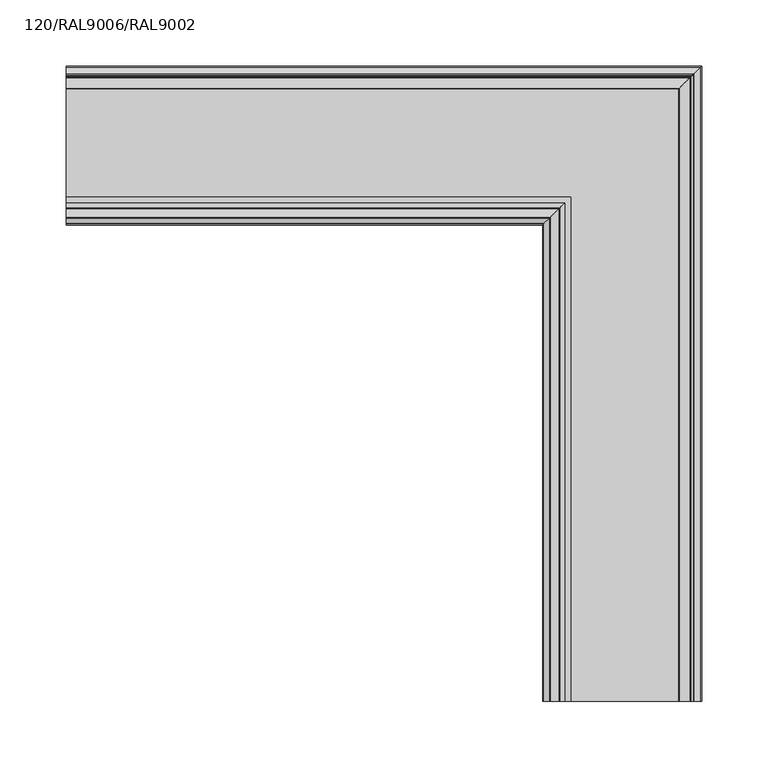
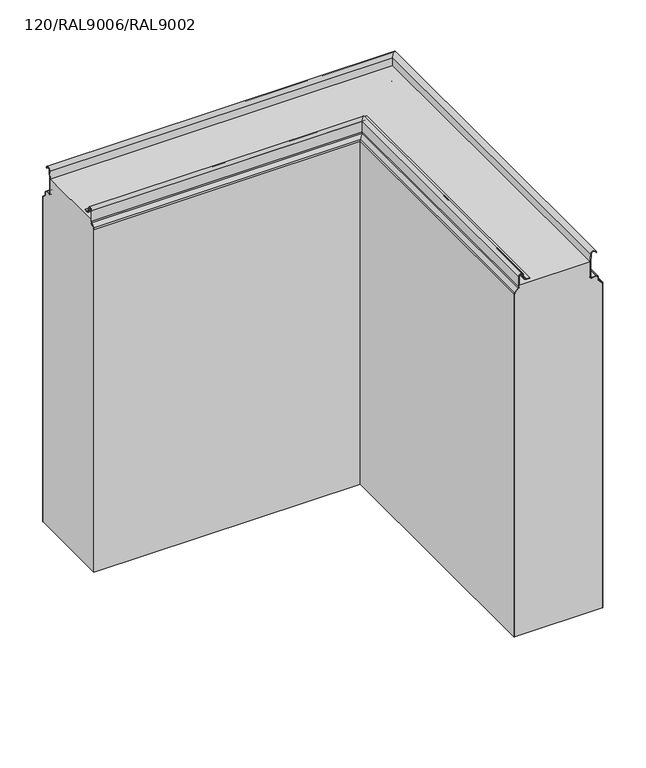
"""IFC4 building model written with IfcOpenShell, lengths in millimetres: plate geometry, TR_C_H_FHL_Corner_Tr_A_cut_TONGUE : 120/RAL9006/RAL9002."""

from ifc_helpers import new_model, si_unit, frame, origin, place, context, project, spatial, polyline, circle_curve, ellipse_curve, source, transform, mapped, element, save
from ifc_brep_helpers import plane_surface, cylinder_surface, revolved_surface, advanced_brep


def plate_120_ral9006_ral9002_7929c230(model_context):
    return source(origin(), model_context, "Body", "AdvancedBrep", [
        advanced_brep(
        [(222.5544237, -480.0, 500.0), (126.8, -480.0, 500.0), (126.8, -480.0, 498.1), (125.8334524, -480.0, 495.7665476), (121.4443651, -480.0, 491.3774603), (120.8, -480.0, 489.8218254), (120.8, -480.0, 0.0), (239.2, -480.0, 0.0), (239.2, -480.0, 463.4370797), (238.6435029, -480.0, 464.7805826), (233.820101, -480.0, 469.6039845), (233.0, -480.0, 471.5838835), (233.0, -480.0, 474.4), (231.1, -480.0, 476.3), (225.2, -480.0, 476.3), (222.4, -480.0, 479.1), (222.4, -480.0, 498.2349288), (-240.0, -17.4455763, 500.0), (-240.0, -17.6, 498.2349288), (-240.0, -17.6, 479.1), (-240.0, -14.8, 476.3), (-240.0, -8.9, 476.3), (-240.0, -7.0, 474.4), (-240.0, -7.0, 471.5838835), (-240.0, -6.179899, 469.6039845), (-240.0, -1.3564971, 464.7805826), (-240.0, -0.8, 463.4370797), (-240.0, -0.8, 0.0), (-240.0, -119.2, 0.0), (-240.0, -119.2, 489.8218254), (-240.0, -118.5556349, 491.3774603), (-240.0, -114.1665476, 495.7665476), (-240.0, -113.2, 498.1), (-240.0, -113.2, 500.0), (222.5544237, -17.4455763, 500.0), (126.8, -113.2, 500.0), (126.8, -113.2, 498.1), (125.8334524, -114.1665476, 495.7665476), (121.4443651, -118.5556349, 491.3774603), (120.8, -119.2, 489.8218254), (239.2, -0.8, 463.4370797), (238.6435029, -1.3564971, 464.7805826), (233.820101, -6.179899, 469.6039845), (233.0, -7.0, 471.5838835), (233.0, -7.0, 474.4), (231.1, -8.9, 476.3), (225.2, -14.8, 476.3), (222.4, -17.6, 479.1), (222.4, -17.6, 498.2349288), (120.8, -119.2, 0.0), (239.2, -0.8, 0.0)],
        [
            (0, 1),
            (1, 2),
            (2, 3, circle_curve(frame((123.5, -480.0, 498.1), z_axis=(0.0, 1.0, 0.0), x_axis=(-1.0, 0.0, 0.0)), 3.3)),
            (3, 4),
            (4, 5, circle_curve(frame((123.0, -480.0, 489.8218254), z_axis=(0.0, -1.0, 0.0), x_axis=(-1.0, 0.0, 0.0)), 2.2)),
            (5, 6),
            (6, 7),
            (7, 8),
            (8, 9, circle_curve(frame((237.3, -480.0, 463.4370797), z_axis=(0.0, -1.0, 0.0), x_axis=(-1.0, 0.0, 0.0)), 1.9)),
            (9, 10),
            (10, 11, circle_curve(frame((235.8, -480.0, 471.5838835), z_axis=(0.0, 1.0, 0.0), x_axis=(-1.0, 0.0, 0.0)), 2.8)),
            (11, 12),
            (12, 13, circle_curve(frame((231.1, -480.0, 474.4), z_axis=(0.0, -1.0, 0.0), x_axis=(-1.0, 0.0, 0.0)), 1.9)),
            (13, 14),
            (14, 15, circle_curve(frame((225.2, -480.0, 479.1), z_axis=(0.0, 1.0, 0.0), x_axis=(-1.0, 0.0, 0.0)), 2.8)),
            (15, 16),
            (16, 0),
            (17, 18),
            (18, 19),
            (19, 20, circle_curve(frame((-240.0, -14.8, 479.1), z_axis=(1.0, 0.0, 0.0), x_axis=(0.0, -1.0, 0.0)), 2.8)),
            (20, 21),
            (21, 22, circle_curve(frame((-240.0, -8.9, 474.4), z_axis=(-1.0, 0.0, 0.0), x_axis=(0.0, -1.0, 0.0)), 1.9)),
            (22, 23),
            (23, 24, circle_curve(frame((-240.0, -4.2, 471.5838835), z_axis=(1.0, 0.0, 0.0), x_axis=(0.0, -1.0, 0.0)), 2.8)),
            (24, 25),
            (25, 26, circle_curve(frame((-240.0, -2.7, 463.4370797), z_axis=(-1.0, 0.0, 0.0), x_axis=(0.0, -1.0, 0.0)), 1.9)),
            (26, 27),
            (27, 28),
            (28, 29),
            (29, 30, circle_curve(frame((-240.0, -117.0, 489.8218254), z_axis=(-1.0, 0.0, 0.0), x_axis=(0.0, -1.0, 0.0)), 2.2)),
            (30, 31),
            (31, 32, circle_curve(frame((-240.0, -116.5, 498.1), z_axis=(1.0, 0.0, 0.0), x_axis=(0.0, -1.0, 0.0)), 3.3)),
            (32, 33),
            (33, 17),
            (0, 34),
            (34, 17),
            (33, 35),
            (35, 1),
            (35, 36),
            (36, 2),
            (36, 37, ellipse_curve(frame((123.5, -116.5, 498.1), z_axis=(-0.7071067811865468, 0.7071067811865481, 0.0), x_axis=(0.7071067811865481, 0.7071067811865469, 0.0)), 4.6669048, 3.3)),
            (37, 3),
            (37, 38),
            (38, 4),
            (38, 39, ellipse_curve(frame((123.0, -117.0, 489.8218254), z_axis=(0.7071067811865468, -0.7071067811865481, 0.0), x_axis=(-0.7071067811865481, -0.7071067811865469, 0.0)), 3.1112698, 2.2)),
            (39, 5),
            (8, 40),
            (40, 41, ellipse_curve(frame((237.3, -2.7, 463.4370797), z_axis=(0.7071067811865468, -0.7071067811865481, 0.0), x_axis=(-0.7071067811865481, -0.7071067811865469, 0.0)), 2.6870058, 1.9)),
            (41, 9),
            (41, 42),
            (42, 10),
            (42, 43, ellipse_curve(frame((235.8, -4.2, 471.5838835), z_axis=(-0.7071067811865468, 0.7071067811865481, 0.0), x_axis=(0.7071067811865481, 0.7071067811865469, 0.0)), 3.959798, 2.8)),
            (43, 11),
            (43, 44),
            (44, 12),
            (44, 45, ellipse_curve(frame((231.1, -8.9, 474.4), z_axis=(0.7071067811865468, -0.7071067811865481, 0.0), x_axis=(-0.7071067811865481, -0.7071067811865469, 0.0)), 2.6870058, 1.9)),
            (45, 13),
            (45, 21),
            (20, 46),
            (46, 14),
            (46, 47, ellipse_curve(frame((225.2, -14.8, 479.1), z_axis=(-0.7071067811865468, 0.7071067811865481, 0.0), x_axis=(0.7071067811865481, 0.7071067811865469, 0.0)), 3.959798, 2.8)),
            (47, 15),
            (47, 48),
            (48, 16),
            (48, 34),
            (32, 36),
            (31, 37),
            (30, 38),
            (29, 39),
            (25, 41),
            (40, 26),
            (24, 42),
            (23, 43),
            (22, 44),
            (19, 47),
            (18, 48),
            (39, 49),
            (49, 6),
            (7, 50),
            (50, 40),
            (28, 49),
            (50, 27),
        ],
        [
            plane_surface(frame((240.0, -480.0, 0.0), z_axis=(0.0, -1.0, 0.0), x_axis=(0.0, 0.0, 1.0))),
            plane_surface(frame((-240.0, 0.0, 0.0), z_axis=(-1.0, 0.0, 0.0), x_axis=(0.0, 0.0, 1.0))),
            plane_surface(frame((222.5544237, -480.0, 500.0), z_axis=(0.0, 0.0, 1.0), x_axis=(0.0, 1.0, 0.0))),
            plane_surface(frame((126.8, -480.0, 500.0), z_axis=(-1.0, 0.0, 0.0), x_axis=(0.0, 1.0, 0.0))),
            revolved_surface(polyline([(120.2, -113.19999996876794, 498.1), (120.2, -480.0, 498.1)]), (123.5, -480.0, 498.1), (0.0, 1.0, 0.0)),
            plane_surface(frame((125.8334524, -480.0, 495.7665476), z_axis=(-0.7071067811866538, 0.0, 0.7071067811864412), x_axis=(0.0, 1.0, 0.0))),
            cylinder_surface(frame((123.0, -480.0, 489.8218254), z_axis=(0.0, -1.0, 0.0), x_axis=(-1.0, 0.0, 0.0)), 2.2),
            cylinder_surface(frame((237.3, -480.0, 463.4370797), z_axis=(0.0, -1.0, 0.0), x_axis=(-1.0, 0.0, 0.0)), 1.9),
            plane_surface(frame((238.6435029, -480.0, 464.7805826), z_axis=(0.7071067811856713, 0.0, 0.7071067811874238), x_axis=(0.0, 1.0, 0.0))),
            revolved_surface(polyline([(233.0, -1.3999999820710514, 471.5838835), (233.0, -480.0, 471.5838835)]), (235.8, -480.0, 471.5838835), (0.0, 1.0, 0.0)),
            plane_surface(frame((233.0, -480.0, 471.5838835), z_axis=(1.0, 0.0, 0.0), x_axis=(0.0, 1.0, 0.0))),
            cylinder_surface(frame((231.1, -480.0, 474.4), z_axis=(0.0, -1.0, 0.0), x_axis=(-1.0, 0.0, 0.0)), 1.9),
            plane_surface(frame((231.1, -480.0, 476.3), z_axis=(0.0, 0.0, 1.0), x_axis=(0.0, 1.0, 0.0))),
            revolved_surface(polyline([(222.39999999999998, -11.999999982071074, 479.1), (222.39999999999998, -480.0, 479.1)]), (225.2, -480.0, 479.1), (0.0, 1.0, 0.0)),
            plane_surface(frame((222.4, -480.0, 479.1), z_axis=(1.0, 0.0, 0.0), x_axis=(0.0, 1.0, 0.0))),
            plane_surface(frame((222.4, -480.0, 498.2349288), z_axis=(0.9961946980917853, 0.0, -0.08715574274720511), x_axis=(0.0, 1.0, 0.0))),
            plane_surface(frame((126.8, -113.2, 500.0), z_axis=(0.0, -1.0, 0.0), x_axis=(-1.0, 0.0, 0.0))),
            revolved_surface(polyline([(-240.0, -119.8, 498.1), (126.80000003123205, -119.8, 498.1)]), (240.0, -116.5, 498.1), (-1.0, 0.0, 0.0)),
            plane_surface(frame((125.8334524, -114.1665476, 495.7665476), z_axis=(0.0, -0.7071067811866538, 0.7071067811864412), x_axis=(-1.0, 0.0, 0.0))),
            cylinder_surface(frame((240.0, -117.0, 489.8218254), z_axis=(1.0, 0.0, 0.0), x_axis=(0.0, -1.0, 0.0)), 2.2),
            cylinder_surface(frame((240.0, -2.7, 463.4370797), z_axis=(1.0, 0.0, 0.0), x_axis=(0.0, -1.0, 0.0)), 1.9),
            plane_surface(frame((238.6435029, -1.3564971, 464.7805826), z_axis=(0.0, 0.7071067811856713, 0.7071067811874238), x_axis=(-1.0, 0.0, 0.0))),
            revolved_surface(polyline([(-240.0, -7.0, 471.5838835), (238.60000001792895, -7.0, 471.5838835)]), (240.0, -4.2, 471.5838835), (-1.0, 0.0, 0.0)),
            plane_surface(frame((233.0, -7.0, 471.5838835), z_axis=(0.0, 1.0, 0.0), x_axis=(-1.0, 0.0, 0.0))),
            cylinder_surface(frame((240.0, -8.9, 474.4), z_axis=(1.0, 0.0, 0.0), x_axis=(0.0, -1.0, 0.0)), 1.9),
            revolved_surface(polyline([(-240.0, -17.6, 479.1), (228.00000001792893, -17.6, 479.1)]), (240.0, -14.8, 479.1), (-1.0, 0.0, 0.0)),
            plane_surface(frame((222.4, -17.6, 479.1), z_axis=(0.0, 1.0, 0.0), x_axis=(-1.0, 0.0, 0.0))),
            plane_surface(frame((222.4, -17.6, 498.2349288), z_axis=(0.0, 0.9961946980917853, -0.08715574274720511), x_axis=(-1.0, 0.0, 0.0))),
            plane_surface(frame((120.8, -480.0, 489.8218254), z_axis=(-1.0, 0.0, 0.0), x_axis=(0.0, 1.0, 0.0))),
            plane_surface(frame((239.2, -480.0, -484.0006516), z_axis=(1.0, 0.0, 0.0), x_axis=(0.0, 1.0, 0.0))),
            plane_surface(frame((120.8, -119.2, 489.8218254), z_axis=(0.0, -1.0, 0.0), x_axis=(-1.0, 0.0, 0.0))),
            plane_surface(frame((239.2, -0.8, -484.0006516), z_axis=(0.0, 1.0, 0.0), x_axis=(-1.0, 0.0, 0.0))),
            plane_surface(frame((240.0, -480.0, 0.0), z_axis=(0.0, 0.0, -1.0), x_axis=(0.0, 1.0, 0.0))),
        ],
        [
            (0, [[1, 2, 3, 4, 5, 6, 7, 8, 9, 10, 11, 12, 13, 14, 15, 16, 17]]),
            (1, [[18, 19, 20, 21, 22, 23, 24, 25, 26, 27, 28, 29, 30, 31, 32, 33, 34]]),
            (2, [[-1, 35, 36, -34, 37, 38]]),
            (3, [[-2, -38, 39, 40]]),
            (4, [[-3, -40, 41, 42]]),
            (5, [[-4, -42, 43, 44]]),
            (6, [[-5, -44, 45, 46]]),
            (7, [[-9, 47, 48, 49]]),
            (8, [[-10, -49, 50, 51]]),
            (9, [[-11, -51, 52, 53]]),
            (10, [[-12, -53, 54, 55]]),
            (11, [[-13, -55, 56, 57]]),
            (12, [[-14, -57, 58, -21, 59, 60]]),
            (13, [[-15, -60, 61, 62]]),
            (14, [[-16, -62, 63, 64]]),
            (15, [[-17, -64, 65, -35]]),
            (16, [[-33, 66, -39, -37]]),
            (17, [[-32, 67, -41, -66]]),
            (18, [[-31, 68, -43, -67]]),
            (19, [[-30, 69, -45, -68]]),
            (20, [[-26, 70, -48, 71]]),
            (21, [[-25, 72, -50, -70]]),
            (22, [[-24, 73, -52, -72]]),
            (23, [[-23, 74, -54, -73]]),
            (24, [[-22, -58, -56, -74]]),
            (25, [[-20, 75, -61, -59]]),
            (26, [[-19, 76, -63, -75]]),
            (27, [[-18, -36, -65, -76]]),
            (28, [[-46, 77, 78, -6]]),
            (29, [[-47, -8, 79, 80]]),
            (30, [[-69, -29, 81, -77]]),
            (31, [[-71, -80, 82, -27]]),
            (32, [[-7, -78, -81, -28, -82, -79]]),
        ],
    ),
        advanced_brep(
        [(230.8148588, -480.0, 510.5426332), (231.5712737, -480.0, 510.8030877), (231.2616595, -480.0, 511.7022726), (223.4948064, -480.0, 510.748623), (222.4, -480.0, 498.2349288), (222.4, -480.0, 479.1), (225.2, -480.0, 476.3), (231.1, -480.0, 476.3), (233.0, -480.0, 474.4), (233.0, -480.0, 471.5838835), (233.820101, -480.0, 469.6039845), (238.6435029, -480.0, 464.7805826), (239.2, -480.0, 463.4370797), (239.2, -480.0, 0.0), (240.0, -480.0, 0.0), (240.0, -480.0, 463.4370797), (239.2091883, -480.0, 465.346268), (234.3857864, -480.0, 470.1696699), (233.8, -480.0, 471.5838835), (233.8, -480.0, 474.4), (231.1, -480.0, 477.1), (225.2, -480.0, 477.1), (223.2, -480.0, 479.1), (223.2, -480.0, 498.2), (224.2917621, -480.0, 510.6788984), (230.5052446, -480.0, 511.4418181), (-240.0, -9.1851412, 510.5426332), (-240.0, -9.4947554, 511.4418181), (-240.0, -15.7082379, 510.6788984), (-240.0, -16.8, 498.2), (-240.0, -16.8, 479.1), (-240.0, -14.8, 477.1), (-240.0, -8.9, 477.1), (-240.0, -6.2, 474.4), (-240.0, -6.2, 471.5838835), (-240.0, -5.6142136, 470.1696699), (-240.0, -0.7908117, 465.346268), (-240.0, 0.0, 463.4370797), (-240.0, 0.0, 0.0), (-240.0, -0.8, 0.0), (-240.0, -0.8, 463.4370797), (-240.0, -1.3564971, 464.7805826), (-240.0, -6.179899, 469.6039845), (-240.0, -7.0, 471.5838835), (-240.0, -7.0, 474.4), (-240.0, -8.9, 476.3), (-240.0, -14.8, 476.3), (-240.0, -17.6, 479.1), (-240.0, -17.6, 498.2349288), (-240.0, -16.5051936, 510.748623), (-240.0, -8.7383405, 511.7022726), (-240.0, -8.4287263, 510.8030877), (240.0, 0.0, 463.4370797), (239.2091883, -0.7908117, 465.346268), (234.3857864, -5.6142136, 470.1696699), (233.8, -6.2, 471.5838835), (233.8, -6.2, 474.4), (231.1, -8.9, 477.1), (225.2, -14.8, 477.1), (223.2, -16.8, 479.1), (223.2, -16.8, 498.2), (224.2917621, -15.7082379, 510.6788984), (230.5052446, -9.4947554, 511.4418181), (230.8148588, -9.1851412, 510.5426332), (231.5712737, -8.4287263, 510.8030877), (231.2616595, -8.7383405, 511.7022726), (223.4948064, -16.5051936, 510.748623), (222.4, -17.6, 498.2349288), (222.4, -17.6, 479.1), (225.2, -14.8, 476.3), (231.1, -8.9, 476.3), (233.0, -7.0, 474.4), (233.0, -7.0, 471.5838835), (233.820101, -6.179899, 469.6039845), (238.6435029, -1.3564971, 464.7805826), (239.2, -0.8, 463.4370797), (239.2, -0.8, 0.0), (240.0, 0.0, 0.0)],
        [
            (0, 1),
            (1, 2),
            (2, 3, circle_curve(frame((227.4795852, -480.0, 510.4), z_axis=(0.0, -1.0, 0.0), x_axis=(-1.0, 0.0, 0.0)), 4.0)),
            (3, 4),
            (4, 5),
            (5, 6, circle_curve(frame((225.2, -480.0, 479.1), z_axis=(0.0, -1.0, 0.0), x_axis=(-1.0, 0.0, 0.0)), 2.8)),
            (6, 7),
            (7, 8, circle_curve(frame((231.1, -480.0, 474.4), z_axis=(0.0, 1.0, 0.0), x_axis=(-1.0, 0.0, 0.0)), 1.9)),
            (8, 9),
            (9, 10, circle_curve(frame((235.8, -480.0, 471.5838835), z_axis=(0.0, -1.0, 0.0), x_axis=(-1.0, 0.0, 0.0)), 2.8)),
            (10, 11),
            (11, 12, circle_curve(frame((237.3, -480.0, 463.4370797), z_axis=(0.0, 1.0, 0.0), x_axis=(-1.0, 0.0, 0.0)), 1.9)),
            (12, 13),
            (13, 14),
            (14, 15),
            (15, 16, circle_curve(frame((237.3, -480.0, 463.4370797), z_axis=(0.0, -1.0, 0.0), x_axis=(-1.0, 0.0, 0.0)), 2.7)),
            (16, 17),
            (17, 18, circle_curve(frame((235.8, -480.0, 471.5838835), z_axis=(0.0, 1.0, 0.0), x_axis=(-1.0, 0.0, 0.0)), 2.0)),
            (18, 19),
            (19, 20, circle_curve(frame((231.1, -480.0, 474.4), z_axis=(0.0, -1.0, 0.0), x_axis=(-1.0, 0.0, 0.0)), 2.7)),
            (20, 21),
            (21, 22, circle_curve(frame((225.2, -480.0, 479.1), z_axis=(0.0, 1.0, 0.0), x_axis=(-1.0, 0.0, 0.0)), 2.0)),
            (22, 23),
            (23, 24),
            (24, 25, circle_curve(frame((227.4795852, -480.0, 510.4), z_axis=(0.0, 1.0, 0.0), x_axis=(-1.0, 0.0, 0.0)), 3.2)),
            (25, 0),
            (26, 27),
            (27, 28, circle_curve(frame((-240.0, -12.5204148, 510.4), z_axis=(1.0, 0.0, 0.0), x_axis=(0.0, -1.0, 0.0)), 3.2)),
            (28, 29),
            (29, 30),
            (30, 31, circle_curve(frame((-240.0, -14.8, 479.1), z_axis=(1.0, 0.0, 0.0), x_axis=(0.0, -1.0, 0.0)), 2.0)),
            (31, 32),
            (32, 33, circle_curve(frame((-240.0, -8.9, 474.4), z_axis=(-1.0, 0.0, 0.0), x_axis=(0.0, -1.0, 0.0)), 2.7)),
            (33, 34),
            (34, 35, circle_curve(frame((-240.0, -4.2, 471.5838835), z_axis=(1.0, 0.0, 0.0), x_axis=(0.0, -1.0, 0.0)), 2.0)),
            (35, 36),
            (36, 37, circle_curve(frame((-240.0, -2.7, 463.4370797), z_axis=(-1.0, 0.0, 0.0), x_axis=(0.0, -1.0, 0.0)), 2.7)),
            (37, 38),
            (38, 39),
            (39, 40),
            (40, 41, circle_curve(frame((-240.0, -2.7, 463.4370797), z_axis=(1.0, 0.0, 0.0), x_axis=(0.0, -1.0, 0.0)), 1.9)),
            (41, 42),
            (42, 43, circle_curve(frame((-240.0, -4.2, 471.5838835), z_axis=(-1.0, 0.0, 0.0), x_axis=(0.0, -1.0, 0.0)), 2.8)),
            (43, 44),
            (44, 45, circle_curve(frame((-240.0, -8.9, 474.4), z_axis=(1.0, 0.0, 0.0), x_axis=(0.0, -1.0, 0.0)), 1.9)),
            (45, 46),
            (46, 47, circle_curve(frame((-240.0, -14.8, 479.1), z_axis=(-1.0, 0.0, 0.0), x_axis=(0.0, -1.0, 0.0)), 2.8)),
            (47, 48),
            (48, 49),
            (49, 50, circle_curve(frame((-240.0, -12.5204148, 510.4), z_axis=(-1.0, 0.0, 0.0), x_axis=(0.0, -1.0, 0.0)), 4.0)),
            (50, 51),
            (51, 26),
            (15, 52),
            (52, 53, ellipse_curve(frame((237.3, -2.7, 463.4370797), z_axis=(0.7071067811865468, -0.7071067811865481, 0.0), x_axis=(-0.7071067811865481, -0.7071067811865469, 0.0)), 3.8183766, 2.7)),
            (53, 16),
            (53, 54),
            (54, 17),
            (54, 55, ellipse_curve(frame((235.8, -4.2, 471.5838835), z_axis=(-0.7071067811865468, 0.7071067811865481, 0.0), x_axis=(0.7071067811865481, 0.7071067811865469, 0.0)), 2.8284271, 2.0)),
            (55, 18),
            (55, 56),
            (56, 19),
            (56, 57, ellipse_curve(frame((231.1, -8.9, 474.4), z_axis=(0.7071067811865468, -0.7071067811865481, 0.0), x_axis=(-0.7071067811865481, -0.7071067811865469, 0.0)), 3.8183766, 2.7)),
            (57, 20),
            (57, 32),
            (31, 58),
            (58, 21),
            (58, 59, ellipse_curve(frame((225.2, -14.8, 479.1), z_axis=(-0.7071067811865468, 0.7071067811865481, 0.0), x_axis=(0.7071067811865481, 0.7071067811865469, 0.0)), 2.8284271, 2.0)),
            (59, 22),
            (59, 60),
            (60, 23),
            (60, 61),
            (61, 24),
            (61, 62, ellipse_curve(frame((227.4795852, -12.5204148, 510.4), z_axis=(-0.7071067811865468, 0.7071067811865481, 0.0), x_axis=(0.7071067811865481, 0.7071067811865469, 0.0)), 4.5254834, 3.2)),
            (62, 25),
            (62, 63),
            (63, 0),
            (63, 64),
            (64, 1),
            (64, 65),
            (65, 2),
            (65, 66, ellipse_curve(frame((227.4795852, -12.5204148, 510.4), z_axis=(0.7071067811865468, -0.7071067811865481, 0.0), x_axis=(-0.7071067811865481, -0.7071067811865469, 0.0)), 5.6568542, 4.0)),
            (66, 3),
            (66, 67),
            (67, 4),
            (67, 68),
            (68, 5),
            (68, 69, ellipse_curve(frame((225.2, -14.8, 479.1), z_axis=(0.7071067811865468, -0.7071067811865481, 0.0), x_axis=(-0.7071067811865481, -0.7071067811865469, 0.0)), 3.959798, 2.8)),
            (69, 6),
            (69, 46),
            (45, 70),
            (70, 7),
            (70, 71, ellipse_curve(frame((231.1, -8.9, 474.4), z_axis=(-0.7071067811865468, 0.7071067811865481, 0.0), x_axis=(0.7071067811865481, 0.7071067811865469, 0.0)), 2.6870058, 1.9)),
            (71, 8),
            (71, 72),
            (72, 9),
            (72, 73, ellipse_curve(frame((235.8, -4.2, 471.5838835), z_axis=(0.7071067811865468, -0.7071067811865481, 0.0), x_axis=(-0.7071067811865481, -0.7071067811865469, 0.0)), 3.959798, 2.8)),
            (73, 10),
            (73, 74),
            (74, 11),
            (74, 75, ellipse_curve(frame((237.3, -2.7, 463.4370797), z_axis=(-0.7071067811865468, 0.7071067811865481, 0.0), x_axis=(0.7071067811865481, 0.7071067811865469, 0.0)), 2.6870058, 1.9)),
            (75, 12),
            (36, 53),
            (52, 37),
            (35, 54),
            (34, 55),
            (33, 56),
            (30, 59),
            (29, 60),
            (28, 61),
            (27, 62),
            (26, 63),
            (51, 64),
            (50, 65),
            (49, 66),
            (48, 67),
            (47, 68),
            (44, 71),
            (43, 72),
            (42, 73),
            (41, 74),
            (40, 75),
            (75, 76),
            (76, 13),
            (14, 77),
            (77, 52),
            (39, 76),
            (77, 38),
        ],
        [
            plane_surface(frame((240.0, -480.0, 0.0), z_axis=(0.0, -1.0, 0.0), x_axis=(0.0, 0.0, 1.0))),
            plane_surface(frame((-240.0, 0.0, 0.0), z_axis=(-1.0, 0.0, 0.0), x_axis=(0.0, 0.0, 1.0))),
            cylinder_surface(frame((237.3, -480.0, 463.4370797), z_axis=(0.0, -1.0, 0.0), x_axis=(-1.0, 0.0, 0.0)), 2.7),
            plane_surface(frame((239.2091883, -480.0, 465.346268), z_axis=(0.7071067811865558, 0.0, 0.7071067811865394), x_axis=(0.0, 1.0, 0.0))),
            revolved_surface(polyline([(233.8, -2.200000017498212, 471.5838835), (233.8, -480.0, 471.5838835)]), (235.8, -480.0, 471.5838835), (0.0, 1.0, 0.0)),
            plane_surface(frame((233.8, -480.0, 471.5838835), z_axis=(1.0, 0.0, 0.0), x_axis=(0.0, 1.0, 0.0))),
            cylinder_surface(frame((231.1, -480.0, 474.4), z_axis=(0.0, -1.0, 0.0), x_axis=(-1.0, 0.0, 0.0)), 2.7),
            plane_surface(frame((231.1, -480.0, 477.1), z_axis=(0.0, 0.0, 1.0), x_axis=(0.0, 1.0, 0.0))),
            revolved_surface(polyline([(223.2, -12.800000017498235, 479.1), (223.2, -480.0, 479.1)]), (225.2, -480.0, 479.1), (0.0, 1.0, 0.0)),
            plane_surface(frame((223.2, -480.0, 479.1), z_axis=(1.0, 0.0, 0.0), x_axis=(0.0, 1.0, 0.0))),
            plane_surface(frame((223.2, -480.0, 498.2), z_axis=(0.9961946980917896, 0.0, -0.08715574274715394), x_axis=(0.0, 1.0, 0.0))),
            revolved_surface(polyline([(224.2795852, -9.320414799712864, 510.4), (224.2795852, -480.0, 510.4)]), (227.4795852, -480.0, 510.4), (0.0, 1.0, 0.0)),
            plane_surface(frame((230.5052446, -480.0, 511.4418181), z_axis=(-0.9455185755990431, 0.0, -0.32556815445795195), x_axis=(0.0, 1.0, 0.0))),
            plane_surface(frame((230.8148588, -480.0, 510.5426332), z_axis=(0.32556815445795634, 0.0, -0.9455185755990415), x_axis=(0.0, 1.0, 0.0))),
            plane_surface(frame((231.5712737, -480.0, 510.8030877), z_axis=(0.9455185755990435, 0.0, 0.3255681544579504), x_axis=(0.0, 1.0, 0.0))),
            cylinder_surface(frame((227.4795852, -480.0, 510.4), z_axis=(0.0, -1.0, 0.0), x_axis=(-1.0, 0.0, 0.0)), 4.0),
            plane_surface(frame((223.4948064, -480.0, 510.748623), z_axis=(-0.9961946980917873, 0.0, 0.08715574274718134), x_axis=(0.0, 1.0, 0.0))),
            plane_surface(frame((222.4, -480.0, 498.2349288), z_axis=(-1.0, 0.0, 0.0), x_axis=(0.0, 1.0, 0.0))),
            cylinder_surface(frame((225.2, -480.0, 479.1), z_axis=(0.0, -1.0, 0.0), x_axis=(-1.0, 0.0, 0.0)), 2.8),
            plane_surface(frame((225.2, -480.0, 476.3), z_axis=(0.0, 0.0, -1.0), x_axis=(0.0, 1.0, 0.0))),
            revolved_surface(polyline([(229.2, -6.9999999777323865, 474.4), (229.2, -480.0, 474.4)]), (231.1, -480.0, 474.4), (0.0, 1.0, 0.0)),
            plane_surface(frame((233.0, -480.0, 474.4), z_axis=(-1.0, 0.0, 0.0), x_axis=(0.0, 1.0, 0.0))),
            cylinder_surface(frame((235.8, -480.0, 471.5838835), z_axis=(0.0, -1.0, 0.0), x_axis=(-1.0, 0.0, 0.0)), 2.8),
            plane_surface(frame((233.820101, -480.0, 469.6039845), z_axis=(-0.7071067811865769, 0.0, -0.7071067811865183), x_axis=(0.0, 1.0, 0.0))),
            revolved_surface(polyline([(235.4, -0.7999999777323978, 463.4370797), (235.4, -480.0, 463.4370797)]), (237.3, -480.0, 463.4370797), (0.0, 1.0, 0.0)),
            cylinder_surface(frame((240.0, -2.7, 463.4370797), z_axis=(1.0, 0.0, 0.0), x_axis=(0.0, -1.0, 0.0)), 2.7),
            plane_surface(frame((239.2091883, -0.7908117, 465.346268), z_axis=(0.0, 0.7071067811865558, 0.7071067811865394), x_axis=(-1.0, 0.0, 0.0))),
            revolved_surface(polyline([(-240.0, -6.2, 471.5838835), (237.79999998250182, -6.2, 471.5838835)]), (240.0, -4.2, 471.5838835), (-1.0, 0.0, 0.0)),
            plane_surface(frame((233.8, -6.2, 471.5838835), z_axis=(0.0, 1.0, 0.0), x_axis=(-1.0, 0.0, 0.0))),
            cylinder_surface(frame((240.0, -8.9, 474.4), z_axis=(1.0, 0.0, 0.0), x_axis=(0.0, -1.0, 0.0)), 2.7),
            revolved_surface(polyline([(-240.0, -16.8, 479.1), (227.1999999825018, -16.8, 479.1)]), (240.0, -14.8, 479.1), (-1.0, 0.0, 0.0)),
            plane_surface(frame((223.2, -16.8, 479.1), z_axis=(0.0, 1.0, 0.0), x_axis=(-1.0, 0.0, 0.0))),
            plane_surface(frame((223.2, -16.8, 498.2), z_axis=(0.0, 0.9961946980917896, -0.08715574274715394), x_axis=(-1.0, 0.0, 0.0))),
            revolved_surface(polyline([(-240.0, -15.7204148, 510.4), (230.67958520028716, -15.7204148, 510.4)]), (240.0, -12.5204148, 510.4), (-1.0, 0.0, 0.0)),
            plane_surface(frame((230.5052446, -9.4947554, 511.4418181), z_axis=(0.0, -0.9455185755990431, -0.32556815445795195), x_axis=(-1.0, 0.0, 0.0))),
            plane_surface(frame((230.8148588, -9.1851412, 510.5426332), z_axis=(0.0, 0.32556815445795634, -0.9455185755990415), x_axis=(-1.0, 0.0, 0.0))),
            plane_surface(frame((231.5712737, -8.4287263, 510.8030877), z_axis=(0.0, 0.9455185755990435, 0.3255681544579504), x_axis=(-1.0, 0.0, 0.0))),
            cylinder_surface(frame((240.0, -12.5204148, 510.4), z_axis=(1.0, 0.0, 0.0), x_axis=(0.0, -1.0, 0.0)), 4.0),
            plane_surface(frame((223.4948064, -16.5051936, 510.748623), z_axis=(0.0, -0.9961946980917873, 0.08715574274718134), x_axis=(-1.0, 0.0, 0.0))),
            plane_surface(frame((222.4, -17.6, 498.2349288), z_axis=(0.0, -1.0, 0.0), x_axis=(-1.0, 0.0, 0.0))),
            cylinder_surface(frame((240.0, -14.8, 479.1), z_axis=(1.0, 0.0, 0.0), x_axis=(0.0, -1.0, 0.0)), 2.8),
            revolved_surface(polyline([(-240.0, -10.8, 474.4), (233.00000002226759, -10.8, 474.4)]), (240.0, -8.9, 474.4), (-1.0, 0.0, 0.0)),
            plane_surface(frame((233.0, -7.0, 474.4), z_axis=(0.0, -1.0, 0.0), x_axis=(-1.0, 0.0, 0.0))),
            cylinder_surface(frame((240.0, -4.2, 471.5838835), z_axis=(1.0, 0.0, 0.0), x_axis=(0.0, -1.0, 0.0)), 2.8),
            plane_surface(frame((233.820101, -6.179899, 469.6039845), z_axis=(0.0, -0.7071067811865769, -0.7071067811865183), x_axis=(-1.0, 0.0, 0.0))),
            revolved_surface(polyline([(-240.0, -4.6, 463.4370797), (239.2000000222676, -4.6, 463.4370797)]), (240.0, -2.7, 463.4370797), (-1.0, 0.0, 0.0)),
            plane_surface(frame((239.2, -480.0, 463.4370797), z_axis=(-1.0, 0.0, 0.0), x_axis=(0.0, 1.0, 0.0))),
            plane_surface(frame((240.0, -480.0, -525.1006169), z_axis=(1.0, 0.0, 0.0), x_axis=(0.0, 1.0, 0.0))),
            plane_surface(frame((239.2, -0.8, 463.4370797), z_axis=(0.0, -1.0, 0.0), x_axis=(-1.0, 0.0, 0.0))),
            plane_surface(frame((240.0, 0.0, -525.1006169), z_axis=(0.0, 1.0, 0.0), x_axis=(-1.0, 0.0, 0.0))),
            plane_surface(frame((240.0, -480.0, 0.0), z_axis=(0.0, 0.0, -1.0), x_axis=(0.0, 1.0, 0.0))),
        ],
        [
            (0, [[1, 2, 3, 4, 5, 6, 7, 8, 9, 10, 11, 12, 13, 14, 15, 16, 17, 18, 19, 20, 21, 22, 23, 24, 25, 26]]),
            (1, [[27, 28, 29, 30, 31, 32, 33, 34, 35, 36, 37, 38, 39, 40, 41, 42, 43, 44, 45, 46, 47, 48, 49, 50, 51, 52]]),
            (2, [[-16, 53, 54, 55]]),
            (3, [[-17, -55, 56, 57]]),
            (4, [[-18, -57, 58, 59]]),
            (5, [[-19, -59, 60, 61]]),
            (6, [[-20, -61, 62, 63]]),
            (7, [[-21, -63, 64, -32, 65, 66]]),
            (8, [[-22, -66, 67, 68]]),
            (9, [[-23, -68, 69, 70]]),
            (10, [[-24, -70, 71, 72]]),
            (11, [[-25, -72, 73, 74]]),
            (12, [[-26, -74, 75, 76]]),
            (13, [[-1, -76, 77, 78]]),
            (14, [[-2, -78, 79, 80]]),
            (15, [[-3, -80, 81, 82]]),
            (16, [[-4, -82, 83, 84]]),
            (17, [[-5, -84, 85, 86]]),
            (18, [[-6, -86, 87, 88]]),
            (19, [[-7, -88, 89, -46, 90, 91]]),
            (20, [[-8, -91, 92, 93]]),
            (21, [[-9, -93, 94, 95]]),
            (22, [[-10, -95, 96, 97]]),
            (23, [[-11, -97, 98, 99]]),
            (24, [[-12, -99, 100, 101]]),
            (25, [[-37, 102, -54, 103]]),
            (26, [[-36, 104, -56, -102]]),
            (27, [[-35, 105, -58, -104]]),
            (28, [[-34, 106, -60, -105]]),
            (29, [[-33, -64, -62, -106]]),
            (30, [[-31, 107, -67, -65]]),
            (31, [[-30, 108, -69, -107]]),
            (32, [[-29, 109, -71, -108]]),
            (33, [[-28, 110, -73, -109]]),
            (34, [[-27, 111, -75, -110]]),
            (35, [[-52, 112, -77, -111]]),
            (36, [[-51, 113, -79, -112]]),
            (37, [[-50, 114, -81, -113]]),
            (38, [[-49, 115, -83, -114]]),
            (39, [[-48, 116, -85, -115]]),
            (40, [[-47, -89, -87, -116]]),
            (41, [[-45, 117, -92, -90]]),
            (42, [[-44, 118, -94, -117]]),
            (43, [[-43, 119, -96, -118]]),
            (44, [[-42, 120, -98, -119]]),
            (45, [[-41, 121, -100, -120]]),
            (46, [[-101, 122, 123, -13]]),
            (47, [[-53, -15, 124, 125]]),
            (48, [[-121, -40, 126, -122]]),
            (49, [[-103, -125, 127, -38]]),
            (50, [[-14, -123, -126, -39, -127, -124]]),
        ],
    ),
        advanced_brep(
        [(141.0, -480.0, 505.3), (141.0, -480.0, 506.1), (136.8869672, -480.0, 506.1), (133.1939382, -480.0, 509.1988193), (132.4506252, -480.0, 513.4143566), (126.0, -480.0, 512.85), (126.0, -480.0, 498.1), (125.267767, -480.0, 496.332233), (120.8786797, -480.0, 491.9431458), (120.0, -480.0, 489.8218254), (120.0, -480.0, 0.0), (120.8, -480.0, 0.0), (120.8, -480.0, 489.8218254), (121.4443651, -480.0, 491.3774603), (125.8334524, -480.0, 495.7665476), (126.8, -480.0, 498.1), (126.8, -480.0, 512.85), (131.662779, -480.0, 513.275438), (132.4060919, -480.0, 509.0599008), (136.8869672, -480.0, 505.3), (-240.0, -99.0, 505.3), (-240.0, -103.1130328, 505.3), (-240.0, -107.5939081, 509.0599008), (-240.0, -108.337221, 513.275438), (-240.0, -113.2, 512.85), (-240.0, -113.2, 498.1), (-240.0, -114.1665476, 495.7665476), (-240.0, -118.5556349, 491.3774603), (-240.0, -119.2, 489.8218254), (-240.0, -119.2, 0.0), (-240.0, -120.0, 0.0), (-240.0, -120.0, 489.8218254), (-240.0, -119.1213203, 491.9431458), (-240.0, -114.732233, 496.332233), (-240.0, -114.0, 498.1), (-240.0, -114.0, 512.85), (-240.0, -107.5493748, 513.4143566), (-240.0, -106.8060618, 509.1988193), (-240.0, -103.1130328, 506.1), (-240.0, -99.0, 506.1), (120.8, -119.2, 489.8218254), (121.4443651, -118.5556349, 491.3774603), (125.8334524, -114.1665476, 495.7665476), (126.8, -113.2, 498.1), (126.8, -113.2, 512.85), (131.662779, -108.337221, 513.275438), (132.4060919, -107.5939081, 509.0599008), (136.8869672, -103.1130328, 505.3), (141.0, -99.0, 505.3), (141.0, -99.0, 506.1), (136.8869672, -103.1130328, 506.1), (133.1939382, -106.8060618, 509.1988193), (132.4506252, -107.5493748, 513.4143566), (126.0, -114.0, 512.85), (126.0, -114.0, 498.1), (125.267767, -114.732233, 496.332233), (120.8786797, -119.1213203, 491.9431458), (120.0, -120.0, 489.8218254), (120.0, -120.0, 0.0), (120.8, -119.2, 0.0)],
        [
            (0, 1),
            (1, 2),
            (2, 3, circle_curve(frame((136.8869672, -480.0, 509.85), z_axis=(0.0, 1.0, 0.0), x_axis=(-1.0, 0.0, 0.0)), 3.75)),
            (3, 4),
            (4, 5, circle_curve(frame((129.25, -480.0, 512.85), z_axis=(0.0, -1.0, 0.0), x_axis=(-1.0, 0.0, 0.0)), 3.25)),
            (5, 6),
            (6, 7, circle_curve(frame((123.5, -480.0, 498.1), z_axis=(0.0, 1.0, 0.0), x_axis=(-1.0, 0.0, 0.0)), 2.5)),
            (7, 8),
            (8, 9, circle_curve(frame((123.0, -480.0, 489.8218254), z_axis=(0.0, -1.0, 0.0), x_axis=(-1.0, 0.0, 0.0)), 3.0)),
            (9, 10),
            (10, 11),
            (11, 12),
            (12, 13, circle_curve(frame((123.0, -480.0, 489.8218254), z_axis=(0.0, 1.0, 0.0), x_axis=(-1.0, 0.0, 0.0)), 2.2)),
            (13, 14),
            (14, 15, circle_curve(frame((123.5, -480.0, 498.1), z_axis=(0.0, -1.0, 0.0), x_axis=(-1.0, 0.0, 0.0)), 3.3)),
            (15, 16),
            (16, 17, circle_curve(frame((129.25, -480.0, 512.85), z_axis=(0.0, 1.0, 0.0), x_axis=(-1.0, 0.0, 0.0)), 2.45)),
            (17, 18),
            (18, 19, circle_curve(frame((136.8869672, -480.0, 509.85), z_axis=(0.0, -1.0, 0.0), x_axis=(-1.0, 0.0, 0.0)), 4.55)),
            (19, 0),
            (20, 21),
            (21, 22, circle_curve(frame((-240.0, -103.1130328, 509.85), z_axis=(-1.0, 0.0, 0.0), x_axis=(0.0, -1.0, 0.0)), 4.55)),
            (22, 23),
            (23, 24, circle_curve(frame((-240.0, -110.75, 512.85), z_axis=(1.0, 0.0, 0.0), x_axis=(0.0, -1.0, 0.0)), 2.45)),
            (24, 25),
            (25, 26, circle_curve(frame((-240.0, -116.5, 498.1), z_axis=(-1.0, 0.0, 0.0), x_axis=(0.0, -1.0, 0.0)), 3.3)),
            (26, 27),
            (27, 28, circle_curve(frame((-240.0, -117.0, 489.8218254), z_axis=(1.0, 0.0, 0.0), x_axis=(0.0, -1.0, 0.0)), 2.2)),
            (28, 29),
            (29, 30),
            (30, 31),
            (31, 32, circle_curve(frame((-240.0, -117.0, 489.8218254), z_axis=(-1.0, 0.0, 0.0), x_axis=(0.0, -1.0, 0.0)), 3.0)),
            (32, 33),
            (33, 34, circle_curve(frame((-240.0, -116.5, 498.1), z_axis=(1.0, 0.0, 0.0), x_axis=(0.0, -1.0, 0.0)), 2.5)),
            (34, 35),
            (35, 36, circle_curve(frame((-240.0, -110.75, 512.85), z_axis=(-1.0, 0.0, 0.0), x_axis=(0.0, -1.0, 0.0)), 3.25)),
            (36, 37),
            (37, 38, circle_curve(frame((-240.0, -103.1130328, 509.85), z_axis=(1.0, 0.0, 0.0), x_axis=(0.0, -1.0, 0.0)), 3.75)),
            (38, 39),
            (39, 20),
            (12, 40),
            (40, 41, ellipse_curve(frame((123.0, -117.0, 489.8218254), z_axis=(-0.7071067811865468, 0.7071067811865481, 0.0), x_axis=(0.7071067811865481, 0.7071067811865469, 0.0)), 3.1112698, 2.2)),
            (41, 13),
            (41, 42),
            (42, 14),
            (42, 43, ellipse_curve(frame((123.5, -116.5, 498.1), z_axis=(0.7071067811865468, -0.7071067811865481, 0.0), x_axis=(-0.7071067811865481, -0.7071067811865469, 0.0)), 4.6669048, 3.3)),
            (43, 15),
            (43, 44),
            (44, 16),
            (44, 45, ellipse_curve(frame((129.25, -110.75, 512.85), z_axis=(-0.7071067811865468, 0.7071067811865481, 0.0), x_axis=(0.7071067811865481, 0.7071067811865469, 0.0)), 3.4648232, 2.45)),
            (45, 17),
            (45, 46),
            (46, 18),
            (46, 47, ellipse_curve(frame((136.8869672, -103.1130328, 509.85), z_axis=(0.7071067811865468, -0.7071067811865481, 0.0), x_axis=(-0.7071067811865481, -0.7071067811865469, 0.0)), 6.4346717, 4.55)),
            (47, 19),
            (47, 21),
            (20, 48),
            (48, 0),
            (48, 49),
            (49, 1),
            (49, 39),
            (38, 50),
            (50, 2),
            (50, 51, ellipse_curve(frame((136.8869672, -103.1130328, 509.85), z_axis=(-0.7071067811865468, 0.7071067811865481, 0.0), x_axis=(0.7071067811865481, 0.7071067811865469, 0.0)), 5.3033009, 3.75)),
            (51, 3),
            (51, 52),
            (52, 4),
            (52, 53, ellipse_curve(frame((129.25, -110.75, 512.85), z_axis=(0.7071067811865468, -0.7071067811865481, 0.0), x_axis=(-0.7071067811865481, -0.7071067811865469, 0.0)), 4.5961941, 3.25)),
            (53, 5),
            (53, 54),
            (54, 6),
            (54, 55, ellipse_curve(frame((123.5, -116.5, 498.1), z_axis=(-0.7071067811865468, 0.7071067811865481, 0.0), x_axis=(0.7071067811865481, 0.7071067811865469, 0.0)), 3.5355339, 2.5)),
            (55, 7),
            (55, 56),
            (56, 8),
            (56, 57, ellipse_curve(frame((123.0, -117.0, 489.8218254), z_axis=(0.7071067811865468, -0.7071067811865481, 0.0), x_axis=(-0.7071067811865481, -0.7071067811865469, 0.0)), 4.2426407, 3.0)),
            (57, 9),
            (27, 41),
            (40, 28),
            (26, 42),
            (25, 43),
            (24, 44),
            (23, 45),
            (22, 46),
            (37, 51),
            (36, 52),
            (35, 53),
            (34, 54),
            (33, 55),
            (32, 56),
            (31, 57),
            (57, 58),
            (58, 10),
            (11, 59),
            (59, 40),
            (30, 58),
            (59, 29),
        ],
        [
            plane_surface(frame((240.0, -480.0, 0.0), z_axis=(0.0, -1.0, 0.0), x_axis=(0.0, 0.0, 1.0))),
            plane_surface(frame((-240.0, 0.0, 0.0), z_axis=(-1.0, 0.0, 0.0), x_axis=(0.0, 0.0, 1.0))),
            revolved_surface(polyline([(120.8, -114.80000002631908, 489.8218254), (120.8, -480.0, 489.8218254)]), (123.0, -480.0, 489.8218254), (0.0, 1.0, 0.0)),
            plane_surface(frame((121.4443651, -480.0, 491.3774603), z_axis=(0.7071067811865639, 0.0, -0.7071067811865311), x_axis=(0.0, 1.0, 0.0))),
            cylinder_surface(frame((123.5, -480.0, 498.1), z_axis=(0.0, -1.0, 0.0), x_axis=(-1.0, 0.0, 0.0)), 3.3),
            plane_surface(frame((126.8, -480.0, 498.1), z_axis=(1.0, 0.0, 0.0), x_axis=(0.0, 1.0, 0.0))),
            revolved_surface(polyline([(126.8, -108.30000001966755, 512.85), (126.8, -480.0, 512.85)]), (129.25, -480.0, 512.85), (0.0, 1.0, 0.0)),
            plane_surface(frame((131.662779, -480.0, 513.275438), z_axis=(-0.9848077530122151, 0.0, -0.17364817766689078), x_axis=(0.0, 1.0, 0.0))),
            cylinder_surface(frame((136.8869672, -480.0, 509.85), z_axis=(0.0, -1.0, 0.0), x_axis=(-1.0, 0.0, 0.0)), 4.55),
            plane_surface(frame((136.8869672, -480.0, 505.3), z_axis=(0.0, 0.0, -1.0), x_axis=(0.0, 1.0, 0.0))),
            plane_surface(frame((141.0, -480.0, 505.3), z_axis=(1.0, 0.0, 0.0), x_axis=(0.0, 1.0, 0.0))),
            plane_surface(frame((141.0, -480.0, 506.1), z_axis=(0.0, 0.0, 1.0), x_axis=(0.0, 1.0, 0.0))),
            revolved_surface(polyline([(133.1369672, -99.36303277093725, 509.85), (133.1369672, -480.0, 509.85)]), (136.8869672, -480.0, 509.85), (0.0, 1.0, 0.0)),
            plane_surface(frame((133.1939382, -480.0, 509.1988193), z_axis=(0.9848077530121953, 0.0, 0.17364817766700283), x_axis=(0.0, 1.0, 0.0))),
            cylinder_surface(frame((129.25, -480.0, 512.85), z_axis=(0.0, -1.0, 0.0), x_axis=(-1.0, 0.0, 0.0)), 3.25),
            plane_surface(frame((126.0, -480.0, 512.85), z_axis=(-1.0, 0.0, 0.0), x_axis=(0.0, 1.0, 0.0))),
            revolved_surface(polyline([(121.0, -114.0, 498.1), (121.0, -480.0, 498.1)]), (123.5, -480.0, 498.1), (0.0, 1.0, 0.0)),
            plane_surface(frame((125.267767, -480.0, 496.332233), z_axis=(-0.7071067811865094, 0.0, 0.7071067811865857), x_axis=(0.0, 1.0, 0.0))),
            cylinder_surface(frame((123.0, -480.0, 489.8218254), z_axis=(0.0, -1.0, 0.0), x_axis=(-1.0, 0.0, 0.0)), 3.0),
            revolved_surface(polyline([(-240.0, -119.2, 489.8218254), (125.19999997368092, -119.2, 489.8218254)]), (240.0, -117.0, 489.8218254), (-1.0, 0.0, 0.0)),
            plane_surface(frame((121.4443651, -118.5556349, 491.3774603), z_axis=(0.0, 0.7071067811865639, -0.7071067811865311), x_axis=(-1.0, 0.0, 0.0))),
            cylinder_surface(frame((240.0, -116.5, 498.1), z_axis=(1.0, 0.0, 0.0), x_axis=(0.0, -1.0, 0.0)), 3.3),
            plane_surface(frame((126.8, -113.2, 498.1), z_axis=(0.0, 1.0, 0.0), x_axis=(-1.0, 0.0, 0.0))),
            revolved_surface(polyline([(-240.0, -113.2, 512.85), (131.69999998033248, -113.2, 512.85)]), (240.0, -110.75, 512.85), (-1.0, 0.0, 0.0)),
            plane_surface(frame((131.662779, -108.337221, 513.275438), z_axis=(0.0, -0.9848077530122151, -0.17364817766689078), x_axis=(-1.0, 0.0, 0.0))),
            cylinder_surface(frame((240.0, -103.1130328, 509.85), z_axis=(1.0, 0.0, 0.0), x_axis=(0.0, -1.0, 0.0)), 4.55),
            plane_surface(frame((141.0, -99.0, 505.3), z_axis=(0.0, 1.0, 0.0), x_axis=(-1.0, 0.0, 0.0))),
            revolved_surface(polyline([(-240.0, -106.8630328, 509.85), (140.6369672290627, -106.8630328, 509.85)]), (240.0, -103.1130328, 509.85), (-1.0, 0.0, 0.0)),
            plane_surface(frame((133.1939382, -106.8060618, 509.1988193), z_axis=(0.0, 0.9848077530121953, 0.17364817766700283), x_axis=(-1.0, 0.0, 0.0))),
            cylinder_surface(frame((240.0, -110.75, 512.85), z_axis=(1.0, 0.0, 0.0), x_axis=(0.0, -1.0, 0.0)), 3.25),
            plane_surface(frame((126.0, -114.0, 512.85), z_axis=(0.0, -1.0, 0.0), x_axis=(-1.0, 0.0, 0.0))),
            revolved_surface(polyline([(-240.0, -119.0, 498.1), (126.0, -119.0, 498.1)]), (240.0, -116.5, 498.1), (-1.0, 0.0, 0.0)),
            plane_surface(frame((125.267767, -114.732233, 496.332233), z_axis=(0.0, -0.7071067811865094, 0.7071067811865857), x_axis=(-1.0, 0.0, 0.0))),
            cylinder_surface(frame((240.0, -117.0, 489.8218254), z_axis=(1.0, 0.0, 0.0), x_axis=(0.0, -1.0, 0.0)), 3.0),
            plane_surface(frame((120.0, -480.0, 489.8218254), z_axis=(-1.0, 0.0, 0.0), x_axis=(0.0, 1.0, 0.0))),
            plane_surface(frame((120.8, -480.0, -499.5186292), z_axis=(1.0, 0.0, 0.0), x_axis=(0.0, 1.0, 0.0))),
            plane_surface(frame((120.0, -120.0, 489.8218254), z_axis=(0.0, -1.0, 0.0), x_axis=(-1.0, 0.0, 0.0))),
            plane_surface(frame((120.8, -119.2, -499.5186292), z_axis=(0.0, 1.0, 0.0), x_axis=(-1.0, 0.0, 0.0))),
            plane_surface(frame((240.0, -480.0, 0.0), z_axis=(0.0, 0.0, -1.0), x_axis=(0.0, 1.0, 0.0))),
        ],
        [
            (0, [[1, 2, 3, 4, 5, 6, 7, 8, 9, 10, 11, 12, 13, 14, 15, 16, 17, 18, 19, 20]]),
            (1, [[21, 22, 23, 24, 25, 26, 27, 28, 29, 30, 31, 32, 33, 34, 35, 36, 37, 38, 39, 40]]),
            (2, [[-13, 41, 42, 43]]),
            (3, [[-14, -43, 44, 45]]),
            (4, [[-15, -45, 46, 47]]),
            (5, [[-16, -47, 48, 49]]),
            (6, [[-17, -49, 50, 51]]),
            (7, [[-18, -51, 52, 53]]),
            (8, [[-19, -53, 54, 55]]),
            (9, [[-20, -55, 56, -21, 57, 58]]),
            (10, [[-1, -58, 59, 60]]),
            (11, [[-2, -60, 61, -39, 62, 63]]),
            (12, [[-3, -63, 64, 65]]),
            (13, [[-4, -65, 66, 67]]),
            (14, [[-5, -67, 68, 69]]),
            (15, [[-6, -69, 70, 71]]),
            (16, [[-7, -71, 72, 73]]),
            (17, [[-8, -73, 74, 75]]),
            (18, [[-9, -75, 76, 77]]),
            (19, [[-28, 78, -42, 79]]),
            (20, [[-27, 80, -44, -78]]),
            (21, [[-26, 81, -46, -80]]),
            (22, [[-25, 82, -48, -81]]),
            (23, [[-24, 83, -50, -82]]),
            (24, [[-23, 84, -52, -83]]),
            (25, [[-22, -56, -54, -84]]),
            (26, [[-40, -61, -59, -57]]),
            (27, [[-38, 85, -64, -62]]),
            (28, [[-37, 86, -66, -85]]),
            (29, [[-36, 87, -68, -86]]),
            (30, [[-35, 88, -70, -87]]),
            (31, [[-34, 89, -72, -88]]),
            (32, [[-33, 90, -74, -89]]),
            (33, [[-32, 91, -76, -90]]),
            (34, [[-77, 92, 93, -10]]),
            (35, [[-41, -12, 94, 95]]),
            (36, [[-91, -31, 96, -92]]),
            (37, [[-79, -95, 97, -29]]),
            (38, [[-11, -93, -96, -30, -97, -94]]),
        ],
    ),
    ])


if __name__ == "__main__":
    model = new_model("IFC4")
    model_context = context("Model", 3, world=origin())
    ifc_project = project(units=[si_unit("LENGTHUNIT", "METRE", prefix="MILLI")], contexts=[model_context])
    site = spatial("IfcSite", under=ifc_project)
    building = spatial("IfcBuilding", under=site)
    placement = place(None, origin())
    plate_120_ral9006_ral9002_shape = plate_120_ral9006_ral9002_7929c230(model_context)
    element("IfcPlate", 1, ObjectType="TR_C_H_FHL_Corner_Tr_A_cut_TONGUE : 120/RAL9006/RAL9002", at=placement, inside=building, context=model_context, shape_type="MappedRepresentation", body=[
        mapped(plate_120_ral9006_ral9002_shape, transform((0.0, 0.0, 0.0), x_axis=(1.0, 0.0, 0.0), y_axis=(0.0, 1.0, 0.0), z_axis=(0.0, 0.0, 1.0))),
    ])
    save(model, "model.ifc")
